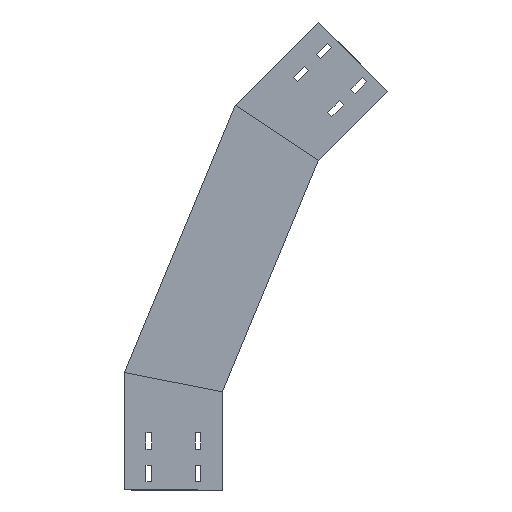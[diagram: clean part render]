
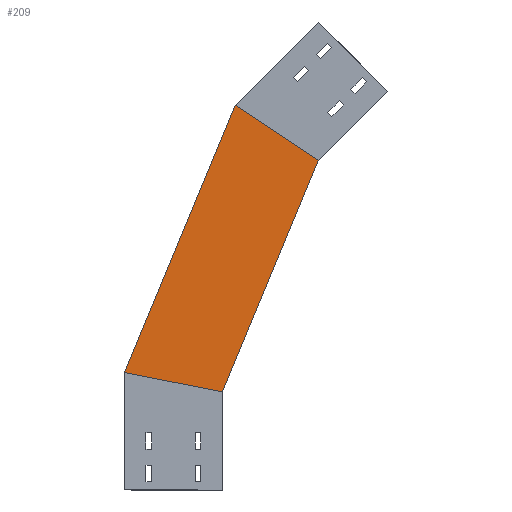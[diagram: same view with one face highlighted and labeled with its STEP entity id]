
A CAD part, left-side view. The second image highlights one B-rep face of the part: STEP entity #209.
In plain terms, the highlighted planar face has unit normal (-1, 0, 0) as drawn and (1, 0, 0) by its records, which use the part's own axes.
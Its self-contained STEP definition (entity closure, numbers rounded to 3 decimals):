
#179 = DIRECTION ( 'NONE',  ( 0., -0.383, 0.924 ) ) ;
#180 = VERTEX_POINT ( 'NONE', #1468 ) ;
#209 = ADVANCED_FACE ( 'NONE', ( #1588 ), #1013, .T. ) ;
#222 = ORIENTED_EDGE ( 'NONE', *, *, #561, .T. ) ;
#331 = LINE ( 'NONE', #1586, #1665 ) ;
#337 = CARTESIAN_POINT ( 'NONE',  ( 0., 151.18, 176.988 ) ) ;
#341 = DIRECTION ( 'NONE',  ( 0., -0.831, -0.556 ) ) ;
#495 = LINE ( 'NONE', #337, #1639 ) ;
#561 = EDGE_CURVE ( 'NONE', #180, #1491, #331, .T. ) ;
#686 = LINE ( 'NONE', #1805, #1570 ) ;
#727 = EDGE_CURVE ( 'NONE', #797, #1539, #686, .T. ) ;
#797 = VERTEX_POINT ( 'NONE', #1986 ) ;
#931 = EDGE_CURVE ( 'NONE', #1539, #1491, #1135, .T. ) ;
#971 = DIRECTION ( 'NONE',  ( 0., -0.383, 0.924 ) ) ;
#1009 = CARTESIAN_POINT ( 'NONE',  ( 0., -146.568, 503.846 ) ) ;
#1013 = PLANE ( 'NONE',  #1177 ) ;
#1018 = CARTESIAN_POINT ( 'NONE',  ( 0., 12.598, 119.585 ) ) ;
#1056 = ORIENTED_EDGE ( 'NONE', *, *, #931, .F. ) ;
#1080 = EDGE_LOOP ( 'NONE', ( #1619, #222, #1056, #1341 ) ) ;
#1135 = LINE ( 'NONE', #1928, #1611 ) ;
#1145 = CARTESIAN_POINT ( 'NONE',  ( 0., 0., 150. ) ) ;
#1177 = AXIS2_PLACEMENT_3D ( 'NONE', #1018, #1343, #1813 ) ;
#1318 = DIRECTION ( 'NONE',  ( 0., -0.981, -0.195 ) ) ;
#1332 = EDGE_CURVE ( 'NONE', #797, #180, #495, .T. ) ;
#1341 = ORIENTED_EDGE ( 'NONE', *, *, #727, .F. ) ;
#1343 = DIRECTION ( 'NONE',  ( 1., 0., 0. ) ) ;
#1468 = CARTESIAN_POINT ( 'NONE',  ( 0., -19.404, 588.814 ) ) ;
#1491 = VERTEX_POINT ( 'NONE', #1009 ) ;
#1539 = VERTEX_POINT ( 'NONE', #1145 ) ;
#1570 = VECTOR ( 'NONE', #1318, 1000. ) ;
#1586 = CARTESIAN_POINT ( 'NONE',  ( 0., -214.035, 458.766 ) ) ;
#1588 = FACE_OUTER_BOUND ( 'NONE', #1080, .T. ) ;
#1611 = VECTOR ( 'NONE', #971, 1000. ) ;
#1619 = ORIENTED_EDGE ( 'NONE', *, *, #1332, .T. ) ;
#1639 = VECTOR ( 'NONE', #179, 1000. ) ;
#1665 = VECTOR ( 'NONE', #341, 1000. ) ;
#1805 = CARTESIAN_POINT ( 'NONE',  ( 0., -28.701, 144.291 ) ) ;
#1813 = DIRECTION ( 'NONE',  ( 0., 0., -1. ) ) ;
#1928 = CARTESIAN_POINT ( 'NONE',  ( 0., 12.598, 119.585 ) ) ;
#1986 = CARTESIAN_POINT ( 'NONE',  ( 0., 150., 179.837 ) ) ;
